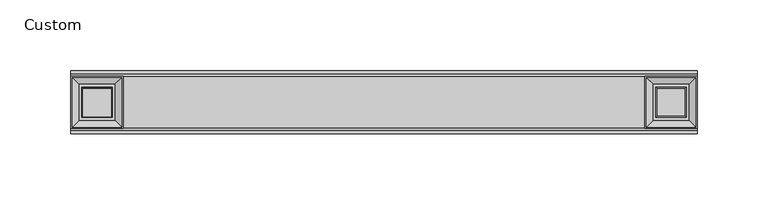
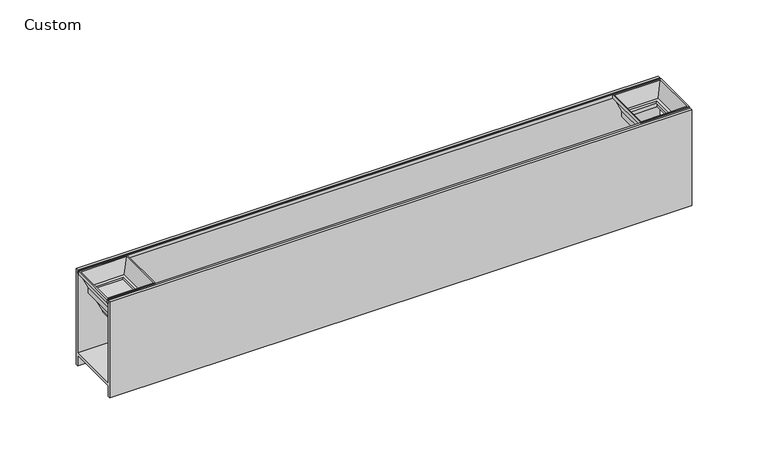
"""IFC4 building model written with IfcOpenShell, lengths in millimetres: light fixture geometry, Lighting-Pendant-Axis-Sculpt-Linear-MikroLite : Custom."""

import ifcopenshell
import ifcopenshell.guid

model = None  # the IFC model being written
_history = None  # IfcOwnerHistory: only IFC2X3 demands one
_inside = {}  # id of a spatial element -> (the spatial element, [elements in it])
_under = {}  # id of a project, library or spatial element -> (it, [spatial elements below it])
_declared = {}  # id of a project -> (the project, [libraries it declares])
_typed = {}  # id of a type object -> (the type object, [elements of that type])
_made_of = {}  # id of a material, layer set ... -> (it, [elements and type objects made of it])


def new_model(schema):
    """Start an empty IFC model of exactly this schema.

    Asked for "IFC4X3", IfcOpenShell would pick the latest addendum, in which some entities
    have other attributes; the version numbers below select the first issue.
    IFC2X3 requires an IfcOwnerHistory on every rooted entity: one is made here for all.
    """
    global model, _history
    if schema == "IFC4X3":
        model = ifcopenshell.file(schema_version=(4, 3, 0, 0))
    else:
        model = ifcopenshell.file(schema=schema)
    _inside.clear()
    _under.clear()
    _declared.clear()
    _typed.clear()
    _made_of.clear()
    _history = None
    if model.schema == "IFC2X3":
        org = make("IfcOrganization", Name="unknown")
        user = make(
            "IfcPersonAndOrganization",
            ThePerson=make("IfcPerson", FamilyName="unknown"),
            TheOrganization=org,
        )
        app = make(
            "IfcApplication",
            ApplicationDeveloper=org,
            Version="unknown",
            ApplicationFullName="unknown",
            ApplicationIdentifier="unknown",
        )
        _history = make(
            "IfcOwnerHistory",
            OwningUser=user,
            OwningApplication=app,
            ChangeAction="ADDED",
            CreationDate=0,
        )
    return model


def make(cls, **values):
    """One entity of the class cls with the attributes given. An attribute that is None is left unset."""
    return model.create_entity(
        cls, **{name: value for name, value in values.items() if value is not None}
    )


def rooted(cls, **values):
    """An entity with a GlobalId (a new one), such as an element, a storey or a relation."""
    return make(cls, GlobalId=ifcopenshell.guid.new(), OwnerHistory=_history, **values)


def si_unit(unit_type, name, prefix=None):
    """IfcSIUnit, for example si_unit("LENGTHUNIT", "METRE", prefix="MILLI")."""
    return make("IfcSIUnit", UnitType=unit_type, Prefix=prefix, Name=name)


def assignment(units):
    """IfcUnitAssignment: the units of a project."""
    return None if units is None else make("IfcUnitAssignment", Units=units)


def point(xyz):
    """IfcCartesianPoint."""
    return None if xyz is None else make("IfcCartesianPoint", Coordinates=xyz)


def direction(xyz):
    """IfcDirection."""
    return None if xyz is None else make("IfcDirection", DirectionRatios=xyz)


def frame(location, z_axis=None, x_axis=None):
    """IfcAxis2Placement3D, a coordinate frame: its origin and axes. An axis left out is left unset."""
    return make(
        "IfcAxis2Placement3D",
        Location=point(location),
        Axis=direction(z_axis),
        RefDirection=direction(x_axis),
    )


def origin():
    """The frame at (0, 0, 0) with its axes left unset."""
    return frame((0.0, 0.0, 0.0))


def place(relative_to, where):
    """IfcLocalPlacement: puts the frame where relative to a parent placement (None: the world)."""
    return make(
        "IfcLocalPlacement", PlacementRelTo=relative_to, RelativePlacement=where
    )


def context(
    kind, dimensions, precision=None, world=None, true_north=None, identifier=None
):
    """IfcGeometricRepresentationContext, for example the 3D "Model" context."""
    return make(
        "IfcGeometricRepresentationContext",
        ContextIdentifier=identifier,
        ContextType=kind,
        CoordinateSpaceDimension=dimensions,
        Precision=precision,
        WorldCoordinateSystem=world,
        TrueNorth=true_north,
    )


def project(units=None, contexts=None):
    """IfcProject with its units and contexts."""
    return rooted(
        "IfcProject",
        Name="project",
        RepresentationContexts=contexts,
        UnitsInContext=assignment(units),
    )


def spatial(cls, under=None, at=None, **own):
    """A site, building, storey or space (cls), placed at a placement, below another one or the project."""
    s = rooted(cls, ObjectPlacement=at, **own)
    if under is not None:
        _under.setdefault(under.id(), (under, []))[1].append(s)
    return s


def polyline(points):
    """IfcPolyline through the points."""
    return make("IfcPolyline", Points=[point(p) for p in points])


def outline(outer, holes=None, kind="AREA"):
    """IfcArbitraryClosedProfileDef: a profile drawn as a closed curve; with holes, ...WithVoids."""
    if holes is None:
        return make("IfcArbitraryClosedProfileDef", ProfileType=kind, OuterCurve=outer)
    return make(
        "IfcArbitraryProfileDefWithVoids",
        ProfileType=kind,
        OuterCurve=outer,
        InnerCurves=holes,
    )


def extrude(swept, where, along, depth):
    """IfcExtrudedAreaSolid: the profile swept, set in the frame where, extruded along a direction by depth."""
    return make(
        "IfcExtrudedAreaSolid",
        SweptArea=swept,
        Position=where,
        ExtrudedDirection=direction(along),
        Depth=depth,
    )


def faces_of(points, faces, orient=None, outer=None):
    """IfcFace entities. A face is a list of loops; a loop is a list of indices into points, from 0.

    orient and outer hold one flag for each loop. By default every Orientation is true, the
    first loop of a face is its IfcFaceOuterBound and the others are IfcFaceBound.
    """
    made = []
    for i, loops in enumerate(faces):
        bounds = []
        for j, loop in enumerate(loops):
            is_outer = j == 0 if outer is None else outer[i][j]
            bounds.append(
                make(
                    "IfcFaceOuterBound" if is_outer else "IfcFaceBound",
                    Bound=make("IfcPolyLoop", Polygon=[points[k] for k in loop]),
                    Orientation=True if orient is None else orient[i][j],
                )
            )
        made.append(make("IfcFace", Bounds=bounds))
    return made


def faceted_brep(points, faces, orient=None, outer=None, voids=None):
    """IfcFacetedBrep: a solid bounded by flat faces; with voids (closed shells), ...WithVoids."""
    shared = [point(p) for p in points]
    hull = make("IfcClosedShell", CfsFaces=faces_of(shared, faces, orient, outer))
    if voids is None:
        return make("IfcFacetedBrep", Outer=hull)
    return make(
        "IfcFacetedBrepWithVoids",
        Outer=hull,
        Voids=[
            make(cls, CfsFaces=faces_of(shared, fs, o, b)) for cls, fs, o, b in voids
        ],
    )


def shape(context_of_items, identifier, shape_type, items):
    """IfcShapeRepresentation: the items that make up one representation, for example the "Body"."""
    return make(
        "IfcShapeRepresentation",
        ContextOfItems=context_of_items,
        RepresentationIdentifier=identifier,
        RepresentationType=shape_type,
        Items=items,
    )


def source(mapping_origin, context_of_items, identifier, shape_type, items):
    """IfcRepresentationMap: a shape defined once, which mapped items show again and again."""
    return make(
        "IfcRepresentationMap",
        MappingOrigin=mapping_origin,
        MappedRepresentation=shape(context_of_items, identifier, shape_type, items),
    )


def transform(
    local_origin,
    x_axis=None,
    y_axis=None,
    z_axis=None,
    scale=None,
    scale2=None,
    scale3=None,
    uniform=True,
):
    """IfcCartesianTransformationOperator3D, or its non-uniform kind. x_axis, y_axis, z_axis: its Axis1, 2, 3."""
    if uniform:
        return make(
            "IfcCartesianTransformationOperator3D",
            Axis1=direction(x_axis),
            Axis2=direction(y_axis),
            LocalOrigin=point(local_origin),
            Scale=scale,
            Axis3=direction(z_axis),
        )
    return make(
        "IfcCartesianTransformationOperator3DnonUniform",
        Axis1=direction(x_axis),
        Axis2=direction(y_axis),
        LocalOrigin=point(local_origin),
        Scale=scale,
        Axis3=direction(z_axis),
        Scale2=scale2,
        Scale3=scale3,
    )


def mapped(mapping_source, mapping_target):
    """IfcMappedItem: shows the shape of a source again, moved by a transform."""
    return make(
        "IfcMappedItem", MappingSource=mapping_source, MappingTarget=mapping_target
    )


def made_of(thing, what):
    """Note that an element or type object is made of a material, layer set ...; save() writes the relation."""
    if what is not None:
        _made_of.setdefault(what.id(), (what, []))[1].append(thing)
    return thing


def element(
    cls,
    number,
    at=None,
    inside=None,
    cuts=None,
    type_object=None,
    material=None,
    context=None,
    identifier="Body",
    shape_type=None,
    held_by="IfcProductDefinitionShape",
    body=None,
    shapes=None,
    **own,
):
    """One element of the class cls, such as IfcWall. Its Tag is "e" and its number.

    at: its placement. inside: the storey or other place that contains it. cuts: it is an
    opening in that element (IfcRelVoidsElement). A single representation is given by context,
    identifier, shape_type and body (its items); several are given by shapes. held_by: the class
    of the entity that holds the representations. save() writes the other relations.
    """
    e = rooted(cls, Tag="e%d" % number, ObjectPlacement=at, **own)
    if body is not None:
        shapes = [shape(context, identifier, shape_type, body)]
    if shapes is not None:
        e.Representation = make(held_by, Representations=shapes)
    if inside is not None:
        _inside.setdefault(inside.id(), (inside, []))[1].append(e)
    if cuts is not None:
        rooted(
            "IfcRelVoidsElement", RelatingBuildingElement=cuts, RelatedOpeningElement=e
        )
    if type_object is not None:
        _typed.setdefault(type_object.id(), (type_object, []))[1].append(e)
    return made_of(e, material)


def aggregate(whole, parts):
    """IfcRelAggregates: a whole, such as a stair, and the parts it consists of."""
    return rooted("IfcRelAggregates", RelatingObject=whole, RelatedObjects=parts)


def save(model, path):
    """Write the relations noted so far, then the file.

    IfcRelAggregates (storeys below a building ...), IfcRelContainedInSpatialStructure (elements
    in a storey), IfcRelDefinesByType, IfcRelAssociatesMaterial and IfcRelDeclares: one each for
    every whole, place, type object, material and project.
    """
    for whole, parts in _under.values():
        aggregate(whole, parts)
    for where, things in _inside.values():
        rooted(
            "IfcRelContainedInSpatialStructure",
            RelatedElements=things,
            RelatingStructure=where,
        )
    for kind, things in _typed.values():
        rooted("IfcRelDefinesByType", RelatedObjects=things, RelatingType=kind)
    for what, things in _made_of.values():
        rooted("IfcRelAssociatesMaterial", RelatedObjects=things, RelatingMaterial=what)
    for by, libraries in _declared.values():
        rooted("IfcRelDeclares", RelatingContext=by, RelatedDefinitions=libraries)
    model.write(path)


def custom_b0c51f44(model_context):
    return source(origin(), model_context, "Body", "SolidModel", [
        faceted_brep([(184.94375, 17.62125, 684.05375), (188.566509, 13.998491, 674.8360445), (188.566509, -13.998491, 674.8360445), (184.94375, -17.62125, 684.05375), (184.15, 18.415, 686.59375), (184.15, 18.415, 684.05375), (184.15, -18.415, 684.05375), (184.15, -18.415, 686.59375), (189.5906011, 12.9743989, 676.2523379), (185.1475798, 17.4174202, 686.59375), (185.1475798, -17.4174202, 686.59375), (189.5906011, -12.9743989, 676.2523379), (192.605, 9.96, 675.0023379), (191.8833122, 10.6816878, 676.2523379), (191.8833122, -10.6816878, 676.2523379), (192.605, -9.96, 675.0023379), (190.6498564, 11.9151436, 670.4023379), (190.69, 11.875, 675.0023379), (190.69, -11.875, 675.0023379), (190.6498564, -11.9151436, 670.4023379), (188.6052013, 13.9597987, 670.4023379), (188.6052013, -13.9597987, 670.4023379), (216.563491, -13.998491, 674.8360445), (220.18625, -17.62125, 684.05375), (220.98, -18.415, 684.05375), (220.98, -18.415, 686.59375), (219.9824202, -17.4174202, 686.59375), (215.5393989, -12.9743989, 676.2523379), (213.2466878, -10.6816878, 676.2523379), (212.525, -9.96, 675.0023379), (214.44, -11.875, 675.0023379), (214.4801436, -11.9151436, 670.4023379), (216.5247987, -13.9597987, 670.4023379), (216.563491, 13.998491, 674.8360445), (220.18625, 17.62125, 684.05375), (220.98, 18.415, 684.05375), (220.98, 18.415, 686.59375), (219.9824202, 17.4174202, 686.59375), (215.5393989, 12.9743989, 676.2523379), (213.2466878, 10.6816878, 676.2523379), (212.525, 9.96, 675.0023379), (214.44, 11.875, 675.0023379), (214.4801436, 11.9151436, 670.4023379), (216.5247987, 13.9597987, 670.4023379)], [[[0, 1, 2, 3]], [[4, 5, 6, 7]], [[8, 9, 10, 11]], [[12, 13, 14, 15]], [[16, 17, 18, 19]], [[1, 20, 21, 2]], [[3, 2, 22, 23]], [[7, 6, 24, 25]], [[11, 10, 26, 27]], [[15, 14, 28, 29]], [[19, 18, 30, 31]], [[2, 21, 32, 22]], [[23, 22, 33, 34]], [[25, 24, 35, 36]], [[27, 26, 37, 38]], [[29, 28, 39, 40]], [[31, 30, 41, 42]], [[22, 32, 43, 33]], [[34, 33, 1, 0]], [[5, 35, 24, 6], [3, 23, 34, 0]], [[36, 35, 5, 4]], [[7, 25, 36, 4], [9, 37, 26, 10]], [[38, 37, 9, 8]], [[11, 27, 38, 8], [13, 39, 28, 14]], [[40, 39, 13, 12]], [[17, 41, 30, 18], [15, 29, 40, 12]], [[42, 41, 17, 16]], [[20, 43, 32, 21], [19, 31, 42, 16]], [[33, 43, 20, 1]]]),
        extrude(outline(polyline([(-214.3331775, 11.7681775), (-190.7968225, 11.7681775), (-190.7968225, -11.7681775), (-214.3331775, -11.7681775), (-214.3331775, 11.7681775)])), frame((0.0, 0.0, 674.2085879), z_axis=(0.0, 0.0, 1.0), x_axis=(1.0, 0.0, 0.0)), (0.0, 0.0, 1.0), 0.79375),
        faceted_brep([(-207.503354, 4.938354, 657.96345), (-212.3205431, 9.7555431, 669.7971206), (-212.3205431, -9.7555431, 669.7971206), (-207.503354, -4.938354, 657.96345), (-206.709604, 4.144604, 657.0197), (-206.709604, 4.144604, 657.96345), (-206.709604, -4.144604, 657.96345), (-206.709604, -4.144604, 657.0197), (-209.5152792, 6.9502792, 657.81345), (-209.5152792, 6.9502792, 657.0197), (-209.5152792, -6.9502792, 657.0197), (-209.5152792, -6.9502792, 657.81345), (-214.2339949, 11.6689949, 669.4052154), (-214.2339949, -11.6689949, 669.4052154), (-212.3950122, 9.8300122, 674.06345), (-212.3950122, -9.8300122, 674.06345), (-192.8094569, -9.7555431, 669.7971206), (-197.626646, -4.938354, 657.96345), (-198.420396, -4.144604, 657.96345), (-198.420396, -4.144604, 657.0197), (-195.6147208, -6.9502792, 657.0197), (-195.6147208, -6.9502792, 657.81345), (-190.8960051, -11.6689949, 669.4052154), (-192.7349878, -9.8300122, 674.06345), (-192.8094569, 9.7555431, 669.7971206), (-197.626646, 4.938354, 657.96345), (-198.420396, 4.144604, 657.96345), (-198.420396, 4.144604, 657.0197), (-195.6147208, 6.9502792, 657.0197), (-195.6147208, 6.9502792, 657.81345), (-190.8960051, 11.6689949, 669.4052154), (-192.7349878, 9.8300122, 674.06345), (-214.2339949, -11.6689949, 674.06345), (-190.8960051, -11.6689949, 674.06345), (-190.8960051, 11.6689949, 674.06345), (-214.2339949, 11.6689949, 674.06345)], [[[0, 1, 2, 3]], [[4, 5, 6, 7]], [[8, 9, 10, 11]], [[12, 8, 11, 13]], [[1, 14, 15, 2]], [[3, 2, 16, 17]], [[7, 6, 18, 19]], [[11, 10, 20, 21]], [[13, 11, 21, 22]], [[2, 15, 23, 16]], [[17, 16, 24, 25]], [[19, 18, 26, 27]], [[21, 20, 28, 29]], [[22, 21, 29, 30]], [[16, 23, 31, 24]], [[25, 24, 1, 0]], [[3, 17, 25, 0], [5, 26, 18, 6]], [[27, 26, 5, 4]], [[9, 28, 20, 10], [7, 19, 27, 4]], [[29, 28, 9, 8]], [[30, 29, 8, 12]], [[32, 33, 34, 35], [14, 31, 23, 15]], [[24, 31, 14, 1]], [[35, 12, 13, 32]], [[32, 13, 22, 33]], [[33, 22, 30, 34]], [[34, 30, 12, 35]]]),
        faceted_brep([(-220.18625, 17.62125, 684.05375), (-216.563491, 13.998491, 674.8360445), (-216.563491, -13.998491, 674.8360445), (-220.18625, -17.62125, 684.05375), (-220.98, 18.415, 686.59375), (-220.98, 18.415, 684.05375), (-220.98, -18.415, 684.05375), (-220.98, -18.415, 686.59375), (-215.5393989, 12.9743989, 676.2523379), (-219.9824202, 17.4174202, 686.59375), (-219.9824202, -17.4174202, 686.59375), (-215.5393989, -12.9743989, 676.2523379), (-212.525, 9.96, 675.0023379), (-213.2466878, 10.6816878, 676.2523379), (-213.2466878, -10.6816878, 676.2523379), (-212.525, -9.96, 675.0023379), (-214.4801436, 11.9151436, 670.4023379), (-214.44, 11.875, 675.0023379), (-214.44, -11.875, 675.0023379), (-214.4801436, -11.9151436, 670.4023379), (-216.5247987, 13.9597987, 670.4023379), (-216.5247987, -13.9597987, 670.4023379), (-188.566509, -13.998491, 674.8360445), (-184.94375, -17.62125, 684.05375), (-184.15, -18.415, 684.05375), (-184.15, -18.415, 686.59375), (-185.1475798, -17.4174202, 686.59375), (-189.5906011, -12.9743989, 676.2523379), (-191.8833122, -10.6816878, 676.2523379), (-192.605, -9.96, 675.0023379), (-190.69, -11.875, 675.0023379), (-190.6498564, -11.9151436, 670.4023379), (-188.6052013, -13.9597987, 670.4023379), (-188.566509, 13.998491, 674.8360445), (-184.94375, 17.62125, 684.05375), (-184.15, 18.415, 684.05375), (-184.15, 18.415, 686.59375), (-185.1475798, 17.4174202, 686.59375), (-189.5906011, 12.9743989, 676.2523379), (-191.8833122, 10.6816878, 676.2523379), (-192.605, 9.96, 675.0023379), (-190.69, 11.875, 675.0023379), (-190.6498564, 11.9151436, 670.4023379), (-188.6052013, 13.9597987, 670.4023379)], [[[0, 1, 2, 3]], [[4, 5, 6, 7]], [[8, 9, 10, 11]], [[12, 13, 14, 15]], [[16, 17, 18, 19]], [[1, 20, 21, 2]], [[3, 2, 22, 23]], [[7, 6, 24, 25]], [[11, 10, 26, 27]], [[15, 14, 28, 29]], [[19, 18, 30, 31]], [[2, 21, 32, 22]], [[23, 22, 33, 34]], [[25, 24, 35, 36]], [[27, 26, 37, 38]], [[29, 28, 39, 40]], [[31, 30, 41, 42]], [[22, 32, 43, 33]], [[34, 33, 1, 0]], [[5, 35, 24, 6], [3, 23, 34, 0]], [[36, 35, 5, 4]], [[7, 25, 36, 4], [9, 37, 26, 10]], [[38, 37, 9, 8]], [[11, 27, 38, 8], [13, 39, 28, 14]], [[40, 39, 13, 12]], [[17, 41, 30, 18], [15, 29, 40, 12]], [[42, 41, 17, 16]], [[20, 43, 32, 21], [19, 31, 42, 16]], [[33, 43, 20, 1]]]),
        extrude(outline(polyline([(20.0025, 684.05375), (18.415, 684.05375), (18.415, 686.59375), (20.0025, 686.0159473), (20.0025, 684.05375)])), frame((-220.98, 0.0, 0.0), z_axis=(1.0, 0.0, 0.0), x_axis=(0.0, 1.0, 0.0)), (0.0, 0.0, 1.0), 441.96),
        extrude(outline(polyline([(-20.0025, 684.05375), (-20.0025, 686.0159473), (-18.415, 686.59375), (-18.415, 684.05375), (-20.0025, 684.05375)])), frame((-220.98, 0.0, 0.0), z_axis=(1.0, 0.0, 0.0), x_axis=(0.0, 1.0, 0.0)), (0.0, 0.0, 1.0), 441.96),
        extrude(outline(polyline([(20.193, 620.0775), (20.193, 686.59375), (22.225, 686.59375), (22.225, 609.6), (20.193, 609.6), (20.193, 618.0455), (-20.193, 618.0455), (-20.193, 609.6), (-22.225, 609.6), (-22.225, 686.59375), (-20.193, 686.59375), (-20.193, 620.0775), (20.193, 620.0775)])), frame((-220.98, 0.0, 0.0), z_axis=(1.0, 0.0, 0.0), x_axis=(0.0, 1.0, 0.0)), (0.0, 0.0, 1.0), 441.96),
    ])


if __name__ == "__main__":
    model = new_model("IFC4")
    model_context = context("Model", 3, world=origin())
    ifc_project = project(units=[si_unit("LENGTHUNIT", "METRE", prefix="MILLI")], contexts=[model_context])
    site = spatial("IfcSite", under=ifc_project)
    building = spatial("IfcBuilding", under=site)
    placement = place(None, origin())
    custom_shape = custom_b0c51f44(model_context)
    element("IfcLightFixture", 1, ObjectType="Lighting-Pendant-Axis-Sculpt-Linear-MikroLite : Custom", at=placement, inside=building, context=model_context, shape_type="MappedRepresentation", body=[
        mapped(custom_shape, transform((0.0, 0.0, 0.0), x_axis=(1.0, 0.0, 0.0), y_axis=(0.0, 1.0, 0.0), z_axis=(0.0, 0.0, 1.0))),
    ])
    save(model, "model.ifc")
